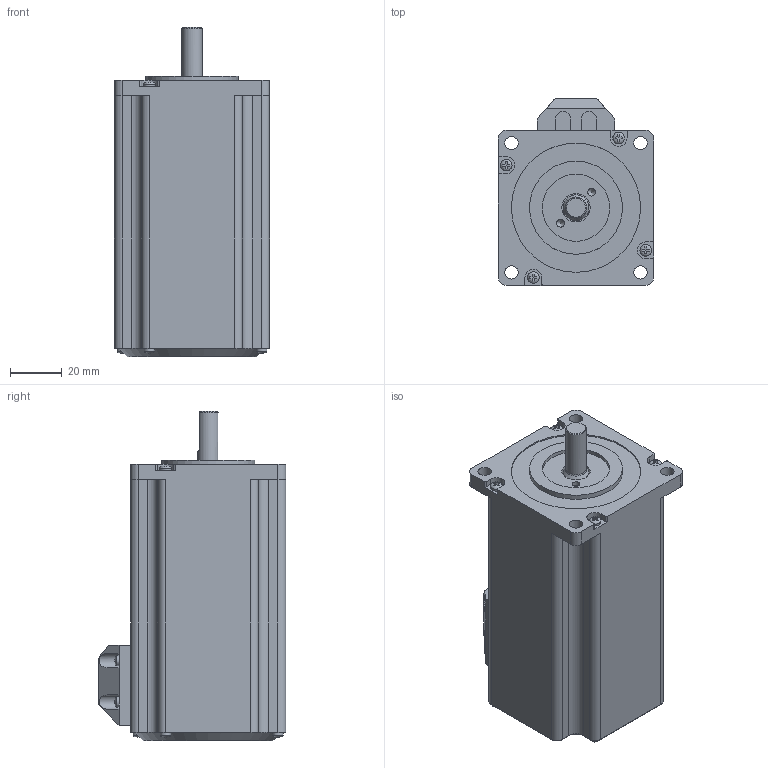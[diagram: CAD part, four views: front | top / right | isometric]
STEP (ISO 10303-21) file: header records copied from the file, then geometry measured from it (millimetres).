
FILE_DESCRIPTION(/* description */ (''),/* implementation_level */ '2;1');
FILE_NAME(/* name */ 'QL60HS86.stp',/* time_stamp */ '2021-01-15T11:13:23+08:00',/* author */ (''),/* organization */ (''),/* preprocessor_version */ 'ST-DEVELOPER v14',/* originating_system */ 'SIEMENS PLM Software NX 8.0',/* authorisation */ '');
FILE_SCHEMA (('AUTOMOTIVE_DESIGN { 1 0 10303 214 3 1 1 1 }'));
Length unit declared in the file: millimetre
Products named in the file (1): abcd0E94C2B2yblp
Bounding box: 60 x 72.5 x 127.5 mm (x, y, z)
Volume: 644.2 mm3; surface area: 35305.4 mm2
Topology: 12 solids, 13 shells, 462 faces, 1242 edges, 821 vertices
Faces by surface type: plane 248, cylinder 163, cone 17, torus 14, bspline 12, revolution 8
Full cylindrical faces by diameter (mm): 2.4 x12, 2.5 x24, 2.8 x4, 3 x2, 4 x8, 4.5 x4, 5.2 x4, 8 x1, 10 x1, 11 x1, 26 x1, 36 x1, 50 x1
Entity records: 25407 total; most frequent: CARTESIAN_POINT 12548, ORIENTED_EDGE 2060, DIRECTION 1682, EDGE_CURVE 1030, VERTEX_POINT 721, AXIS2_PLACEMENT_3D 636, EDGE_LOOP 551, PRESENTATION_STYLE_ASSIGNMENT 458
